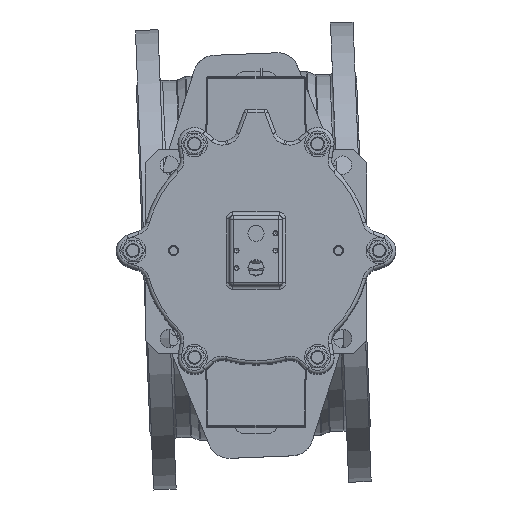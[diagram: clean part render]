
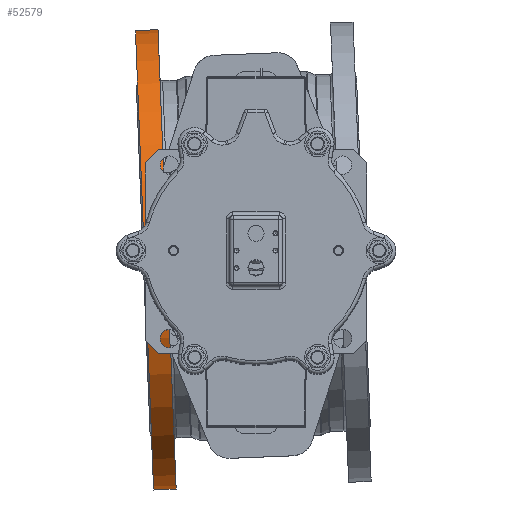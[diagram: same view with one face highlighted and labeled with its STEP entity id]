
A CAD part, top view. The second image highlights one B-rep face of the part: STEP entity #52579.
In plain terms, the highlighted cylindrical face has radius 265 mm (diameter 530 mm), a full revolution.
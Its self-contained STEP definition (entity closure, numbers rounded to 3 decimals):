
#4183=LINE('',#85733,#7130);
#7130=VECTOR('',#64917,265.);
#9763=CYLINDRICAL_SURFACE('',#56479,265.);
#10976=FACE_OUTER_BOUND('',#14225,.T.);
#14225=EDGE_LOOP('',(#36731,#36732,#36733,#36734,#36735,#36736));
#17732=CIRCLE('',#55886,265.);
#17733=CIRCLE('',#55887,265.);
#18053=CIRCLE('',#56480,265.);
#18054=CIRCLE('',#56481,265.);
#21625=VERTEX_POINT('',#80106);
#21626=VERTEX_POINT('',#80107);
#22074=VERTEX_POINT('',#85732);
#22075=VERTEX_POINT('',#85734);
#26769=EDGE_CURVE('',#21625,#21626,#17732,.T.);
#26770=EDGE_CURVE('',#21626,#21625,#17733,.T.);
#27551=EDGE_CURVE('',#21626,#22074,#4183,.T.);
#27552=EDGE_CURVE('',#22074,#22075,#18053,.T.);
#27553=EDGE_CURVE('',#22075,#22074,#18054,.T.);
#36731=ORIENTED_EDGE('',*,*,#26769,.F.);
#36732=ORIENTED_EDGE('',*,*,#26770,.F.);
#36733=ORIENTED_EDGE('',*,*,#27551,.T.);
#36734=ORIENTED_EDGE('',*,*,#27552,.T.);
#36735=ORIENTED_EDGE('',*,*,#27553,.T.);
#36736=ORIENTED_EDGE('',*,*,#27551,.F.);
#52579=ADVANCED_FACE('',(#10976),#9763,.T.);
#55886=AXIS2_PLACEMENT_3D('',#80108,#63442,#63443);
#55887=AXIS2_PLACEMENT_3D('',#80109,#63444,#63445);
#56479=AXIS2_PLACEMENT_3D('',#85731,#64915,#64916);
#56480=AXIS2_PLACEMENT_3D('',#85735,#64918,#64919);
#56481=AXIS2_PLACEMENT_3D('',#85736,#64920,#64921);
#63442=DIRECTION('center_axis',(0.999,0.04,0.));
#63443=DIRECTION('ref_axis',(0.04,-0.999,0.));
#63444=DIRECTION('center_axis',(0.999,0.04,0.));
#63445=DIRECTION('ref_axis',(0.04,-0.999,0.));
#64915=DIRECTION('center_axis',(0.999,0.04,0.));
#64916=DIRECTION('ref_axis',(0.,0.,
1.));
#64917=DIRECTION('',(-0.999,-0.04,0.));
#64918=DIRECTION('center_axis',(0.999,0.04,0.));
#64919=DIRECTION('ref_axis',(0.04,-0.999,0.));
#64920=DIRECTION('center_axis',(0.999,0.04,0.));
#64921=DIRECTION('ref_axis',(0.04,-0.999,0.));
#80106=CARTESIAN_POINT('',(-102.522,-7.157,265.));
#80107=CARTESIAN_POINT('',(-102.522,-7.157,-265.));
#80108=CARTESIAN_POINT('Origin',(-102.522,-7.157,0.));
#80109=CARTESIAN_POINT('Origin',(-102.522,-7.157,0.));
#85731=CARTESIAN_POINT('Origin',(-115.511,-7.671,0.));
#85732=CARTESIAN_POINT('',(-128.501,-8.184,-265.));
#85733=CARTESIAN_POINT('',(-115.511,-7.671,-265.));
#85734=CARTESIAN_POINT('',(-128.501,-8.184,265.));
#85735=CARTESIAN_POINT('Origin',(-128.501,-8.184,0.));
#85736=CARTESIAN_POINT('Origin',(-128.501,-8.184,0.));
